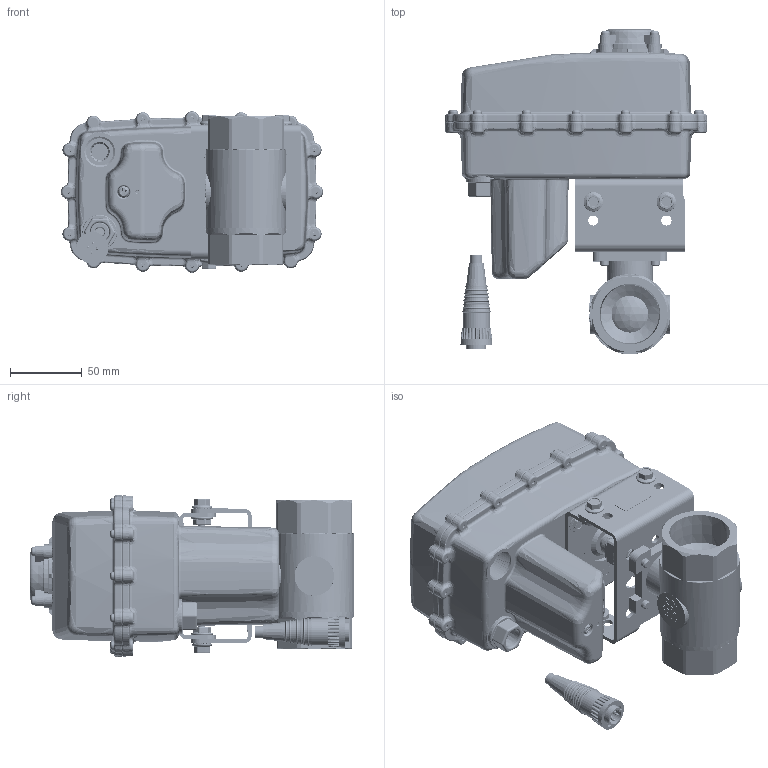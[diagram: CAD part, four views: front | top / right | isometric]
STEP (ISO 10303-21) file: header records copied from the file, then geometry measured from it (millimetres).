
FILE_DESCRIPTION (( 'STEP AP203' ), '1' );
FILE_NAME ('67G22-10DY0-CF1.STEP', '2025-05-13T19:29:14', ( '' ), ( '' ), 'SwSTEP 2.0', 'SolidWorks 2021', '' );
FILE_SCHEMA (( 'CONFIG_CONTROL_DESIGN' ));
Length unit declared in the file: inch
Products named in the file (1): 67G22-10DY0-CF1
Bounding box: 182.34 x 225.93 x 112.49 mm (x, y, z)
Volume: 547819 mm3; surface area: 345530.5 mm2
Topology: 73 solids, 73 shells, 9902 faces, 25402 edges, 15476 vertices
Faces by surface type: cylinder 3013, plane 2224, bspline 2087, torus 1477, cone 700, sphere 401
Entity records: 427961 total; most frequent: CARTESIAN_POINT 212326, ORIENTED_EDGE 49700, DIRECTION 40482, EDGE_CURVE 24850, AXIS2_PLACEMENT_3D 16174, VERTEX_POINT 15273, EDGE_LOOP 10295, FACE_OUTER_BOUND 9902
